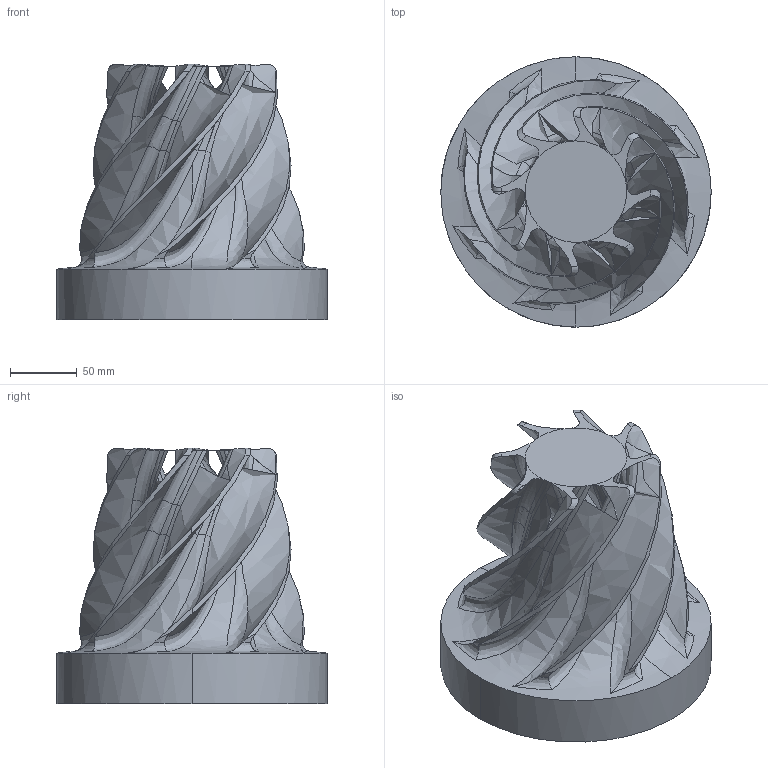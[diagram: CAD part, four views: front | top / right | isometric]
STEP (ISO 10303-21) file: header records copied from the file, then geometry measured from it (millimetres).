
FILE_DESCRIPTION ((), '1');
FILE_NAME ('c:\program files\bobcad-cam\bobcad-cam v21\cad\v21 files\mc9 files for transfer\test turbine\test turbine bcc w-o modifications.stp', '2007-02-23T10:47:07', ('c:\program files\bobcad-cam\bobcad-cam v21\cad\v21 files\mc9 files for transfer\test turbine\test turbine bcc w-o modifications.stp'), ('Unknown'), 'HarmonyWare STEP v1.2.8', 'Bobcad-cam', '');
FILE_SCHEMA (('CONFIG_CONTROL_DESIGN'));
Length unit declared in the file: millimetre
Products named in the file (134): product-name
Bounding box: 203.2 x 203.2 x 192.23 mm (x, y, z)
Surface area: 203499.9 mm2 (no closed solid volume)
Topology: 0 solids, 138 shells, 138 faces, 803 edges, 802 vertices
Faces by surface type: bspline 138
Entity records: 46523 total; most frequent: CARTESIAN_POINT 31651, PERSON 1072, ORGANIZATION 1072, PERSON_AND_ORGANIZATION 1072, ORIENTED_EDGE 803, PERSON_AND_ORGANIZATION_ROLE 670, CC_DESIGN_PERSON_AND_ORGANIZATION_ASSIGNMENT 670, CALENDAR_DATE 670
